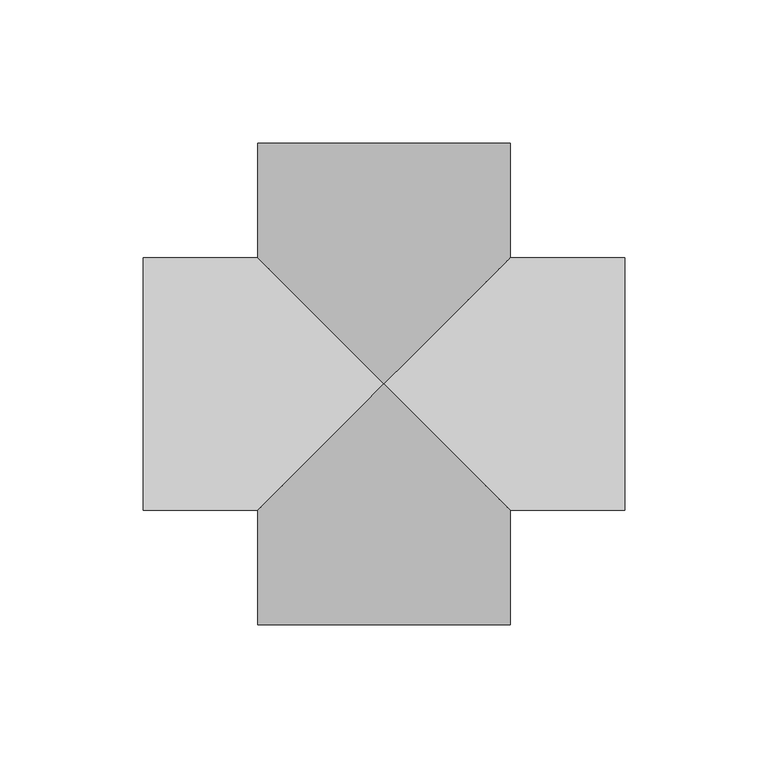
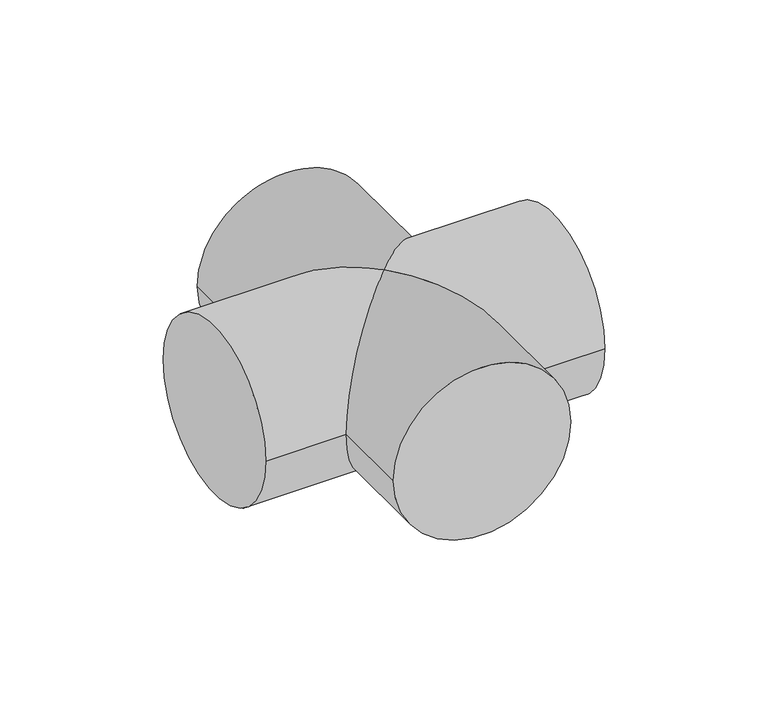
"""IFC4 building model written with IfcOpenShell, lengths in millimetres: pipe fitting geometry, 01051068 : Cruces."""

import ifcopenshell
import ifcopenshell.guid

model = None  # the IFC model being written
_history = None  # IfcOwnerHistory: only IFC2X3 demands one
_inside = {}  # id of a spatial element -> (the spatial element, [elements in it])
_under = {}  # id of a project, library or spatial element -> (it, [spatial elements below it])
_declared = {}  # id of a project -> (the project, [libraries it declares])
_typed = {}  # id of a type object -> (the type object, [elements of that type])
_made_of = {}  # id of a material, layer set ... -> (it, [elements and type objects made of it])


def new_model(schema):
    """Start an empty IFC model of exactly this schema.

    Asked for "IFC4X3", IfcOpenShell would pick the latest addendum, in which some entities
    have other attributes; the version numbers below select the first issue.
    IFC2X3 requires an IfcOwnerHistory on every rooted entity: one is made here for all.
    """
    global model, _history
    if schema == "IFC4X3":
        model = ifcopenshell.file(schema_version=(4, 3, 0, 0))
    else:
        model = ifcopenshell.file(schema=schema)
    _inside.clear()
    _under.clear()
    _declared.clear()
    _typed.clear()
    _made_of.clear()
    _history = None
    if model.schema == "IFC2X3":
        org = make("IfcOrganization", Name="unknown")
        user = make(
            "IfcPersonAndOrganization",
            ThePerson=make("IfcPerson", FamilyName="unknown"),
            TheOrganization=org,
        )
        app = make(
            "IfcApplication",
            ApplicationDeveloper=org,
            Version="unknown",
            ApplicationFullName="unknown",
            ApplicationIdentifier="unknown",
        )
        _history = make(
            "IfcOwnerHistory",
            OwningUser=user,
            OwningApplication=app,
            ChangeAction="ADDED",
            CreationDate=0,
        )
    return model


def make(cls, **values):
    """One entity of the class cls with the attributes given. An attribute that is None is left unset."""
    return model.create_entity(
        cls, **{name: value for name, value in values.items() if value is not None}
    )


def rooted(cls, **values):
    """An entity with a GlobalId (a new one), such as an element, a storey or a relation."""
    return make(cls, GlobalId=ifcopenshell.guid.new(), OwnerHistory=_history, **values)


def si_unit(unit_type, name, prefix=None):
    """IfcSIUnit, for example si_unit("LENGTHUNIT", "METRE", prefix="MILLI")."""
    return make("IfcSIUnit", UnitType=unit_type, Prefix=prefix, Name=name)


def assignment(units):
    """IfcUnitAssignment: the units of a project."""
    return None if units is None else make("IfcUnitAssignment", Units=units)


def point(xyz):
    """IfcCartesianPoint."""
    return None if xyz is None else make("IfcCartesianPoint", Coordinates=xyz)


def direction(xyz):
    """IfcDirection."""
    return None if xyz is None else make("IfcDirection", DirectionRatios=xyz)


def frame(location, z_axis=None, x_axis=None):
    """IfcAxis2Placement3D, a coordinate frame: its origin and axes. An axis left out is left unset."""
    return make(
        "IfcAxis2Placement3D",
        Location=point(location),
        Axis=direction(z_axis),
        RefDirection=direction(x_axis),
    )


def origin():
    """The frame at (0, 0, 0) with its axes left unset."""
    return frame((0.0, 0.0, 0.0))


def place(relative_to, where):
    """IfcLocalPlacement: puts the frame where relative to a parent placement (None: the world)."""
    return make(
        "IfcLocalPlacement", PlacementRelTo=relative_to, RelativePlacement=where
    )


def context(
    kind, dimensions, precision=None, world=None, true_north=None, identifier=None
):
    """IfcGeometricRepresentationContext, for example the 3D "Model" context."""
    return make(
        "IfcGeometricRepresentationContext",
        ContextIdentifier=identifier,
        ContextType=kind,
        CoordinateSpaceDimension=dimensions,
        Precision=precision,
        WorldCoordinateSystem=world,
        TrueNorth=true_north,
    )


def project(units=None, contexts=None):
    """IfcProject with its units and contexts."""
    return rooted(
        "IfcProject",
        Name="project",
        RepresentationContexts=contexts,
        UnitsInContext=assignment(units),
    )


def spatial(cls, under=None, at=None, **own):
    """A site, building, storey or space (cls), placed at a placement, below another one or the project."""
    s = rooted(cls, ObjectPlacement=at, **own)
    if under is not None:
        _under.setdefault(under.id(), (under, []))[1].append(s)
    return s


def circle_curve(where, radius):
    """IfcCircle in the frame where."""
    return make("IfcCircle", Position=where, Radius=radius)


def ellipse_curve(where, semi_axis1, semi_axis2):
    """IfcEllipse in the frame where."""
    return make(
        "IfcEllipse", Position=where, SemiAxis1=semi_axis1, SemiAxis2=semi_axis2
    )


def shape(context_of_items, identifier, shape_type, items):
    """IfcShapeRepresentation: the items that make up one representation, for example the "Body"."""
    return make(
        "IfcShapeRepresentation",
        ContextOfItems=context_of_items,
        RepresentationIdentifier=identifier,
        RepresentationType=shape_type,
        Items=items,
    )


def source(mapping_origin, context_of_items, identifier, shape_type, items):
    """IfcRepresentationMap: a shape defined once, which mapped items show again and again."""
    return make(
        "IfcRepresentationMap",
        MappingOrigin=mapping_origin,
        MappedRepresentation=shape(context_of_items, identifier, shape_type, items),
    )


def transform(
    local_origin,
    x_axis=None,
    y_axis=None,
    z_axis=None,
    scale=None,
    scale2=None,
    scale3=None,
    uniform=True,
):
    """IfcCartesianTransformationOperator3D, or its non-uniform kind. x_axis, y_axis, z_axis: its Axis1, 2, 3."""
    if uniform:
        return make(
            "IfcCartesianTransformationOperator3D",
            Axis1=direction(x_axis),
            Axis2=direction(y_axis),
            LocalOrigin=point(local_origin),
            Scale=scale,
            Axis3=direction(z_axis),
        )
    return make(
        "IfcCartesianTransformationOperator3DnonUniform",
        Axis1=direction(x_axis),
        Axis2=direction(y_axis),
        LocalOrigin=point(local_origin),
        Scale=scale,
        Axis3=direction(z_axis),
        Scale2=scale2,
        Scale3=scale3,
    )


def mapped(mapping_source, mapping_target):
    """IfcMappedItem: shows the shape of a source again, moved by a transform."""
    return make(
        "IfcMappedItem", MappingSource=mapping_source, MappingTarget=mapping_target
    )


def made_of(thing, what):
    """Note that an element or type object is made of a material, layer set ...; save() writes the relation."""
    if what is not None:
        _made_of.setdefault(what.id(), (what, []))[1].append(thing)
    return thing


def element(
    cls,
    number,
    at=None,
    inside=None,
    cuts=None,
    type_object=None,
    material=None,
    context=None,
    identifier="Body",
    shape_type=None,
    held_by="IfcProductDefinitionShape",
    body=None,
    shapes=None,
    **own,
):
    """One element of the class cls, such as IfcWall. Its Tag is "e" and its number.

    at: its placement. inside: the storey or other place that contains it. cuts: it is an
    opening in that element (IfcRelVoidsElement). A single representation is given by context,
    identifier, shape_type and body (its items); several are given by shapes. held_by: the class
    of the entity that holds the representations. save() writes the other relations.
    """
    e = rooted(cls, Tag="e%d" % number, ObjectPlacement=at, **own)
    if body is not None:
        shapes = [shape(context, identifier, shape_type, body)]
    if shapes is not None:
        e.Representation = make(held_by, Representations=shapes)
    if inside is not None:
        _inside.setdefault(inside.id(), (inside, []))[1].append(e)
    if cuts is not None:
        rooted(
            "IfcRelVoidsElement", RelatingBuildingElement=cuts, RelatedOpeningElement=e
        )
    if type_object is not None:
        _typed.setdefault(type_object.id(), (type_object, []))[1].append(e)
    return made_of(e, material)


def aggregate(whole, parts):
    """IfcRelAggregates: a whole, such as a stair, and the parts it consists of."""
    return rooted("IfcRelAggregates", RelatingObject=whole, RelatedObjects=parts)


def save(model, path):
    """Write the relations noted so far, then the file.

    IfcRelAggregates (storeys below a building ...), IfcRelContainedInSpatialStructure (elements
    in a storey), IfcRelDefinesByType, IfcRelAssociatesMaterial and IfcRelDeclares: one each for
    every whole, place, type object, material and project.
    """
    for whole, parts in _under.values():
        aggregate(whole, parts)
    for where, things in _inside.values():
        rooted(
            "IfcRelContainedInSpatialStructure",
            RelatedElements=things,
            RelatingStructure=where,
        )
    for kind, things in _typed.values():
        rooted("IfcRelDefinesByType", RelatedObjects=things, RelatingType=kind)
    for what, things in _made_of.values():
        rooted("IfcRelAssociatesMaterial", RelatedObjects=things, RelatingMaterial=what)
    for by, libraries in _declared.values():
        rooted("IfcRelDeclares", RelatingContext=by, RelatedDefinitions=libraries)
    model.write(path)


def plane_surface(at):
    """IfcPlane: the flat surface through the origin of the frame at, square to its z axis."""
    return make("IfcPlane", Position=at)


def cylinder_surface(at, radius):
    """IfcCylindricalSurface: all points at the distance radius from the z axis of the frame at."""
    return make("IfcCylindricalSurface", Position=at, Radius=radius)


def advanced_brep(points, edges, surfaces, faces):
    """IfcAdvancedBrep: a solid bounded by faces that lie on surfaces and meet in shared edges.

    An edge is (start, end): straight between two places in points (the first is 0);
    or (start, end, curve); or (start, end, curve, False) where it runs against its curve.
    A face is (place in surfaces, loops), or (place, loops, False) where it looks against
    its surface's normal. A loop lists edges by number (the first is 1), with a minus sign
    where the edge is run from its end to its start. The first loop is the outer one.
    """
    corners = [point(p) for p in points]
    vertices = [make("IfcVertexPoint", VertexGeometry=c) for c in corners]
    made = []
    for start, end, *more in edges:
        made.append(
            make(
                "IfcEdgeCurve",
                EdgeStart=vertices[start],
                EdgeEnd=vertices[end],
                EdgeGeometry=more[0] if more else make("IfcPolyline", Points=[corners[start], corners[end]]),
                SameSense=more[1] if len(more) > 1 else True,
            )
        )
    hull = []
    for where, loops, *sense in faces:
        bounds = []
        for j, loop in enumerate(loops):
            ring = [make("IfcOrientedEdge", EdgeElement=made[abs(k) - 1], Orientation=k > 0) for k in loop]
            bounds.append(
                make(
                    "IfcFaceOuterBound" if j == 0 else "IfcFaceBound",
                    Bound=make("IfcEdgeLoop", EdgeList=ring),
                    Orientation=True,
                )
            )
        hull.append(make("IfcAdvancedFace", Bounds=bounds, FaceSurface=surfaces[where], SameSense=sense[0] if sense else True))
    return make("IfcAdvancedBrep", Outer=make("IfcClosedShell", CfsFaces=hull))


def pipe_fitting_52463d8b(model_context):
    return source(origin(), model_context, "Body", "AdvancedBrep", [
        advanced_brep(
        [(-44.0, 84.0, 0.0), (44.0, 84.0, 0.0), (-44.0, -84.0, 0.0), (44.0, -84.0, 0.0), (-44.0, 44.0, 0.0), (0.0, 0.0, 44.0), (44.0, 44.0, 0.0), (44.0, -44.0, 0.0), (-44.0, -44.0, 0.0), (0.0, 0.0, -44.0), (84.0, 44.0, 0.0), (84.0, -44.0, 0.0), (-84.0, 44.0, 0.0), (-84.0, -44.0, 0.0)],
        [
            (0, 1, circle_curve(frame((0.0, 84.0, 0.0), z_axis=(0.0, 1.0, 0.0), x_axis=(1.0, 0.0, 0.0)), 44.0)),
            (1, 0, circle_curve(frame((0.0, 84.0, 0.0), z_axis=(0.0, 1.0, 0.0), x_axis=(1.0, 0.0, 0.0)), 44.0)),
            (2, 3, circle_curve(frame((0.0, -84.0, 0.0), z_axis=(0.0, -1.0, 0.0), x_axis=(1.0, 0.0, 0.0)), 44.0)),
            (3, 2, circle_curve(frame((0.0, -84.0, 0.0), z_axis=(0.0, -1.0, 0.0), x_axis=(1.0, 0.0, 0.0)), 44.0)),
            (0, 4),
            (4, 5, ellipse_curve(frame((0.0, 0.0, 0.0), z_axis=(0.7071067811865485, 0.7071067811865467, 0.0), x_axis=(-0.7071067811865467, 0.7071067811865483, 0.0)), 62.2253967, 44.0)),
            (5, 6, ellipse_curve(frame((0.0, 0.0, 0.0), z_axis=(-0.7071067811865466, 0.7071067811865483, 0.0), x_axis=(0.7071067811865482, 0.7071067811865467, 0.0)), 62.2253967, 44.0)),
            (6, 1),
            (3, 7),
            (7, 5, ellipse_curve(frame((0.0, 0.0, 0.0), z_axis=(-0.7071067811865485, -0.7071067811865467, 0.0), x_axis=(-0.7071067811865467, 0.7071067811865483, 0.0)), 62.2253967, 44.0)),
            (5, 8, ellipse_curve(frame((0.0, 0.0, 0.0), z_axis=(0.7071067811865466, -0.7071067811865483, 0.0), x_axis=(0.7071067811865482, 0.7071067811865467, 0.0)), 62.2253967, 44.0)),
            (8, 2),
            (6, 9, ellipse_curve(frame((0.0, 0.0, 0.0), z_axis=(-0.7071067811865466, 0.7071067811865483, 0.0), x_axis=(0.7071067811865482, 0.7071067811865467, 0.0)), 62.2253967, 44.0)),
            (9, 4, ellipse_curve(frame((0.0, 0.0, 0.0), z_axis=(0.7071067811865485, 0.7071067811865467, 0.0), x_axis=(-0.7071067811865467, 0.7071067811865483, 0.0)), 62.2253967, 44.0)),
            (8, 9, ellipse_curve(frame((0.0, 0.0, 0.0), z_axis=(0.7071067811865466, -0.7071067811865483, 0.0), x_axis=(0.7071067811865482, 0.7071067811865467, 0.0)), 62.2253967, 44.0)),
            (9, 7, ellipse_curve(frame((0.0, 0.0, 0.0), z_axis=(-0.7071067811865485, -0.7071067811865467, 0.0), x_axis=(-0.7071067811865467, 0.7071067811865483, 0.0)), 62.2253967, 44.0)),
            (10, 11, circle_curve(frame((84.0, 0.0, 0.0), z_axis=(1.0, 0.0, 0.0), x_axis=(0.0, -1.0, 0.0)), 44.0)),
            (11, 10, circle_curve(frame((84.0, 0.0, 0.0), z_axis=(1.0, 0.0, 0.0), x_axis=(0.0, -1.0, 0.0)), 44.0)),
            (12, 13, circle_curve(frame((-84.0, 0.0, 0.0), z_axis=(-1.0, 0.0, 0.0), x_axis=(0.0, -1.0, 0.0)), 44.0)),
            (13, 12, circle_curve(frame((-84.0, 0.0, 0.0), z_axis=(-1.0, 0.0, 0.0), x_axis=(0.0, -1.0, 0.0)), 44.0)),
            (10, 6),
            (7, 11),
            (13, 8),
            (4, 12),
        ],
        [
            plane_surface(frame((0.0, 84.0, 0.0), z_axis=(0.0, 1.0, 0.0), x_axis=(0.0, 0.0, 1.0))),
            plane_surface(frame((0.0, -84.0, 0.0), z_axis=(0.0, -1.0, 0.0), x_axis=(0.0, 0.0, 1.0))),
            cylinder_surface(frame((0.0, 84.0, 0.0), z_axis=(0.0, 1.0, 0.0), x_axis=(1.0, 0.0, 0.0)), 44.0),
            plane_surface(frame((84.0, 0.0, 0.0), z_axis=(1.0, 0.0, 0.0), x_axis=(0.0, 0.0, 1.0))),
            plane_surface(frame((-84.0, 0.0, 0.0), z_axis=(-1.0, 0.0, 0.0), x_axis=(0.0, 0.0, 1.0))),
            cylinder_surface(frame((84.0, 0.0, 0.0), z_axis=(1.0, 0.0, 0.0), x_axis=(0.0, -1.0, 0.0)), 44.0),
        ],
        [
            (0, [[1, 2]]),
            (1, [[3, 4]]),
            (2, [[-1, 5, 6, 7, 8]]),
            (2, [[-4, 9, 10, 11, 12]]),
            (2, [[-2, -8, 13, 14, -5]]),
            (2, [[-3, -12, 15, 16, -9]]),
            (3, [[17, 18]]),
            (4, [[19, 20]]),
            (5, [[-17, 21, -7, -10, 22]]),
            (5, [[-20, 23, -11, -6, 24]]),
            (5, [[-18, -22, -16, -13, -21]]),
            (5, [[-19, -24, -14, -15, -23]]),
        ],
    ),
    ])


if __name__ == "__main__":
    model = new_model("IFC4")
    model_context = context("Model", 3, world=origin())
    ifc_project = project(units=[si_unit("LENGTHUNIT", "METRE", prefix="MILLI")], contexts=[model_context])
    site = spatial("IfcSite", under=ifc_project)
    building = spatial("IfcBuilding", under=site)
    placement = place(None, origin())
    pipe_fitting_shape = pipe_fitting_52463d8b(model_context)
    element("IfcPipeFitting", 1, ObjectType="01051068 : Cruces", at=placement, inside=building, context=model_context, shape_type="MappedRepresentation", body=[
        mapped(pipe_fitting_shape, transform((0.0, 0.0, 0.0), x_axis=(1.0, 0.0, 0.0), y_axis=(0.0, 1.0, 0.0), z_axis=(0.0, 0.0, 1.0))),
    ])
    save(model, "model.ifc")
